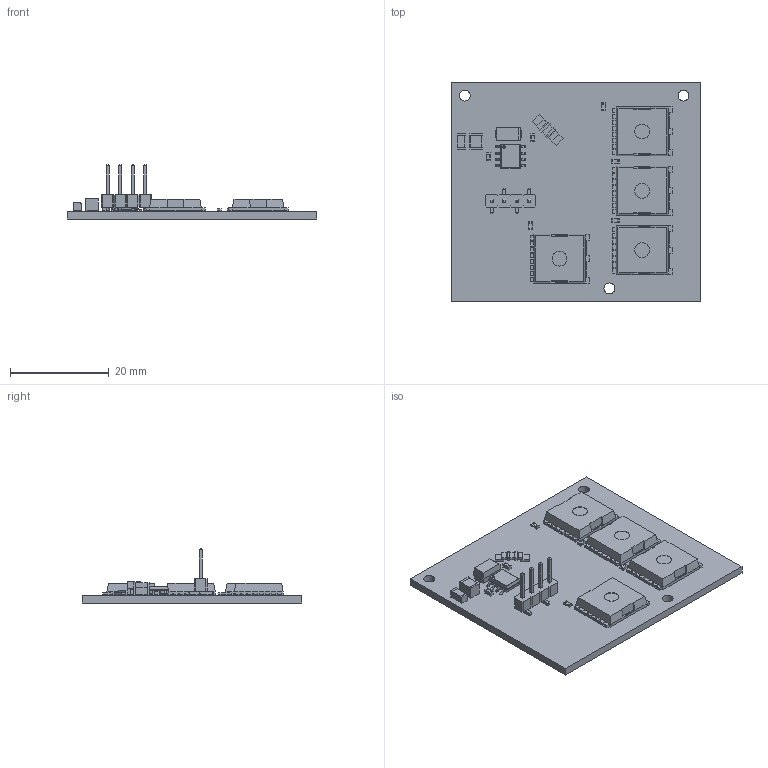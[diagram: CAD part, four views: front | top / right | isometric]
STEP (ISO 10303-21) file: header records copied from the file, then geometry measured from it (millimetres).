
FILE_DESCRIPTION(('KiCad electronic assembly'),'2;1');
FILE_NAME('multiPhasePower.step','2022-11-27T17:06:56',('An Author'),( 'A Company'),'Open CASCADE STEP processor 6.9', 'KiCad to STEP converter','Unknown');
FILE_SCHEMA(('AUTOMOTIVE_DESIGN { 1 0 10303 214 1 1 1 1 }'));
Length unit declared in the file: millimetre
Products named in the file (20): Open CASCADE STEP translator 6.9 1; S1911-46R; SOLID; RS1G; COMPOUND; C_1206_3216Metric; C_1210_3225Metric; C_0603_1608Metric; FDBL86066-F085; PinHeader_1x04_P2.54mm_Vertical_SMD_Pin1Left; IX4427NTR; R_0603_1608Metric
Assembly tree (26 placements, depth 3):
  Open CASCADE STEP translator 6.9 1
    S1911-46R
      SOLID
    RS1G
      COMPOUND
    C_1206_3216Metric
      SOLID
    C_1210_3225Metric
      SOLID
    C_0603_1608Metric  x2
      SOLID
    FDBL86066-F085  x4
      COMPOUND
    PinHeader_1x04_P2.54mm_Vertical_SMD_Pin1Left
      SOLID
    IX4427NTR
      COMPOUND
    R_0603_1608Metric  x4
      SOLID
    COMPOUND
Bounding box: 50.5 x 44.5 x 10.95 mm (x, y, z)
Volume: 4703.2 mm3; surface area: 7407.2 mm2
Topology: 39 solids, 39 shells, 1168 faces, 3007 edges, 1922 vertices
Faces by surface type: plane 1036, cylinder 132
Full cylindrical faces by diameter (mm): 0.487 x1, 2.2 x3
Entity records: 40394 total; most frequent: CARTESIAN_POINT 6725, DIRECTION 5904, LINE 4192, VECTOR 4192, ORIENTED_EDGE 3032, PCURVE 3032, DEFINITIONAL_REPRESENTATION 3032, EDGE_CURVE 1516
